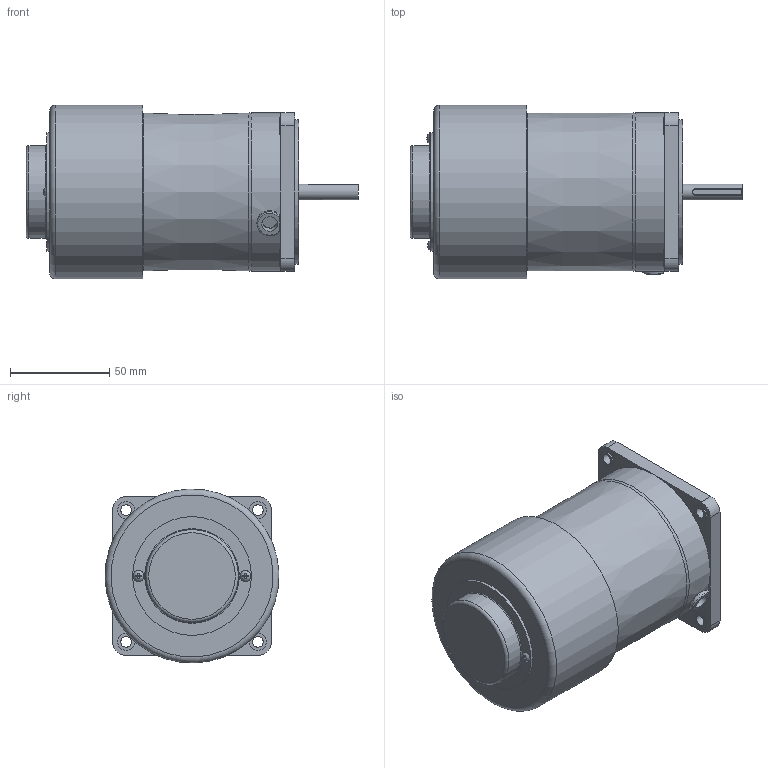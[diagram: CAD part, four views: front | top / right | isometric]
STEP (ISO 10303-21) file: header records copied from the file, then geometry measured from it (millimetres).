
FILE_DESCRIPTION((''),'2;1');
FILE_NAME('D:\STP파일\25W MOTOR\ES TYPE\S8I15K-ES.stp','2013-05-20T16:40:07',('leebh'),(''),'Autodesk Inventor 2011','Autodesk Inventor 2011','');
FILE_SCHEMA(('AUTOMOTIVE_DESIGN { 1 0 10303 214 1 1 1 1 }'));
Length unit declared in the file: millimetre
Products named in the file (1): 부품3
Bounding box: 167.5 x 87.72 x 87.72 mm (x, y, z)
Volume: 693847.8 mm3; surface area: 53761 mm2
Topology: 1 solids, 6 shells, 152 faces, 350 edges, 228 vertices
Faces by surface type: plane 92, cylinder 45, torus 9, bspline 5, cone 1
Full cylindrical faces by diameter (mm): 3 x2, 3.5 x2, 5 x1, 5.5 x4, 5.6 x2, 8 x2, 8.5 x4, 34 x1, 44.7 x1, 46.7 x1, 47.7 x1, 59.9 x1, 73 x1, 78 x1, 80 x1, 87.8 x1
Entity records: 4660 total; most frequent: CARTESIAN_POINT 1326, DIRECTION 660, ORIENTED_EDGE 608, EDGE_CURVE 304, AXIS2_PLACEMENT_3D 249, EDGE_LOOP 221, VERTEX_POINT 219, VECTOR 162
